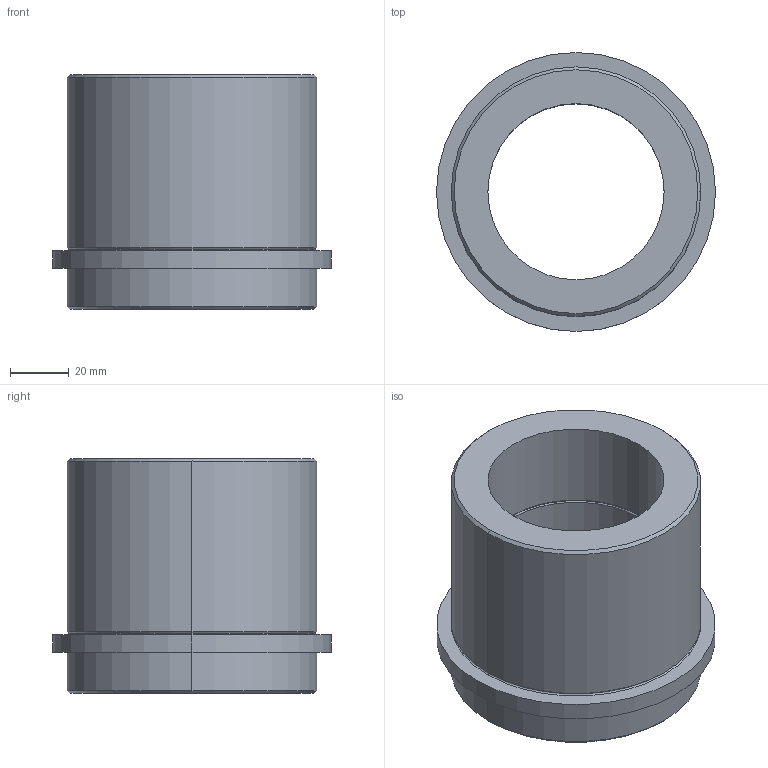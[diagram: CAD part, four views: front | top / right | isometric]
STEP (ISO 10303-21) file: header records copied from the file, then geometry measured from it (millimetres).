
FILE_DESCRIPTION (( 'STEP AP214' ), '1' );
FILE_NAME ('Casquillo SB500-60-80.STEP', '2018-11-26T17:00:30', ( '' ), ( '' ), 'SwSTEP 2.0', 'SolidWorks 2018', '' );
FILE_SCHEMA (( 'AUTOMOTIVE_DESIGN' ));
Length unit declared in the file: millimetre
Products named in the file (1): Casquillo SB500-60-80
Bounding box: 95 x 95 x 80 mm (x, y, z)
Volume: 235837.9 mm3; surface area: 45205.1 mm2
Topology: 1 solids, 1 shells, 32 faces, 64 edges, 36 vertices
Faces by surface type: torus 12, cylinder 12, cone 4, plane 4
Entity records: 874 total; most frequent: DIRECTION 178, CARTESIAN_POINT 133, ORIENTED_EDGE 128, AXIS2_PLACEMENT_3D 81, EDGE_CURVE 64, CIRCLE 48, VERTEX_POINT 36, EDGE_LOOP 36
